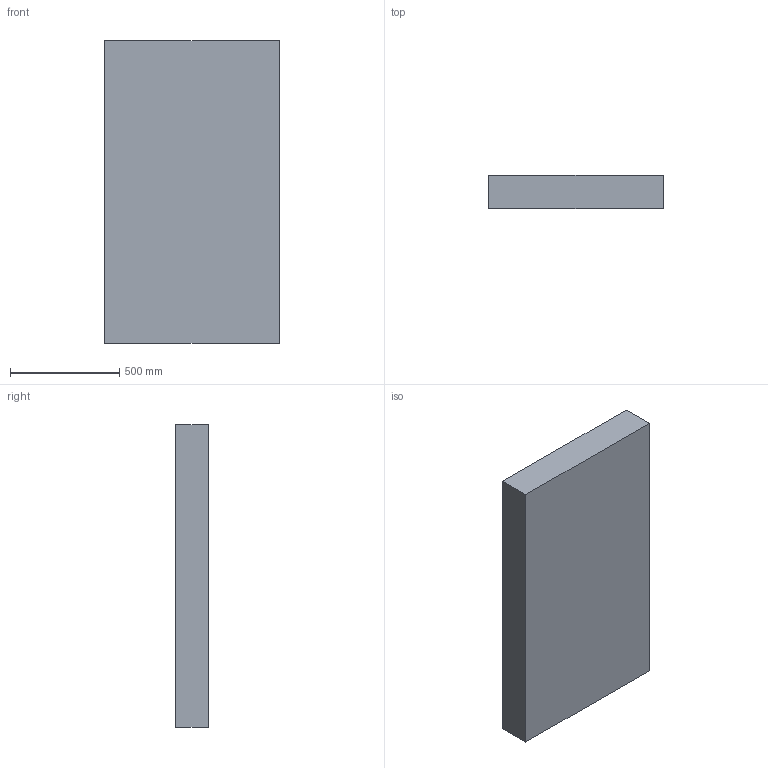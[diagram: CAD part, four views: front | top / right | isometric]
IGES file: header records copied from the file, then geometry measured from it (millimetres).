
Start section:  PTC IGES file: fr_wide_cen_gap_plate.igs
Global section: file name: fr_wide_cen_gap_plate.igs; native system: Pro/ENGINEER by Parametric Technology Corporation; preprocessor: 1999260; author: oshatz; organization: Unknown; date: 000922.101458; units: millimetre
Bounding box: 800 x 150 x 1389 mm (x, y, z)
Surface area: 2879100 mm2 (no closed solid volume)
Topology: 0 solids, 0 shells, 6 faces, 24 edges, 24 vertices
Faces by surface type: bspline 6
